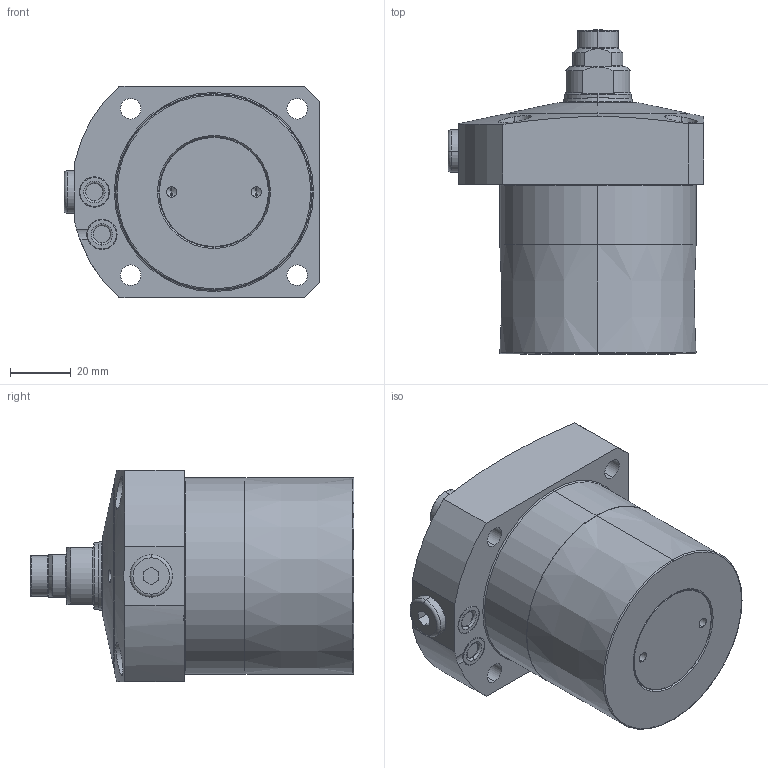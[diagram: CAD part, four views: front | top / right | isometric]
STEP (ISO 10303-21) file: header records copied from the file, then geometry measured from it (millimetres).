
FILE_DESCRIPTION(/* description */ (''),/* implementation_level */ '2;1');
FILE_NAME(/* name */ 'KFSC65-M.stp',/* time_stamp */ '2026-02-04T16:28:49+08:00',/* author */ (''),/* organization */ (''),/* preprocessor_version */ 'ST-DEVELOPER v16.7',/* originating_system */ 'SIEMENS PLM Software NX 12.0',/* authorisation */ '');
FILE_SCHEMA (('AUTOMOTIVE_DESIGN { 1 0 10303 214 3 1 1 1 }'));
Length unit declared in the file: millimetre
Products named in the file (10): XLC-M12SP_pad; XLC-M12SP_pin; XLC-M12SP_contactbolt; XLC-M12_o-ring; KFSC65-M-01; KFSC65-M-02; KFSC65-M-04; KFSC65-M-05; KFSC65-M-03; LC0653-CxM_step
Assembly tree (10 placements, depth 3):
  LC0653-CxM_step
    KFSC65-M-03
      XLC-M12_o-ring
      XLC-M12SP_contactbolt
      XLC-M12SP_pin
      XLC-M12SP_pad
    KFSC65-M-05  x2
    KFSC65-M-04
    KFSC65-M-02
    KFSC65-M-01
Bounding box: 84.5 x 107 x 70 mm (x, y, z)
Volume: 312775.2 mm3; surface area: 38143.5 mm2
Topology: 9 solids, 9 shells, 280 faces, 624 edges, 377 vertices
Faces by surface type: cylinder 93, torus 63, plane 61, cone 57, sphere 6
Entity records: 8322 total; most frequent: CARTESIAN_POINT 1887, DIRECTION 1423, ORIENTED_EDGE 1184, AXIS2_PLACEMENT_3D 614, EDGE_CURVE 592, VERTEX_POINT 363, CIRCLE 335, EDGE_LOOP 311
